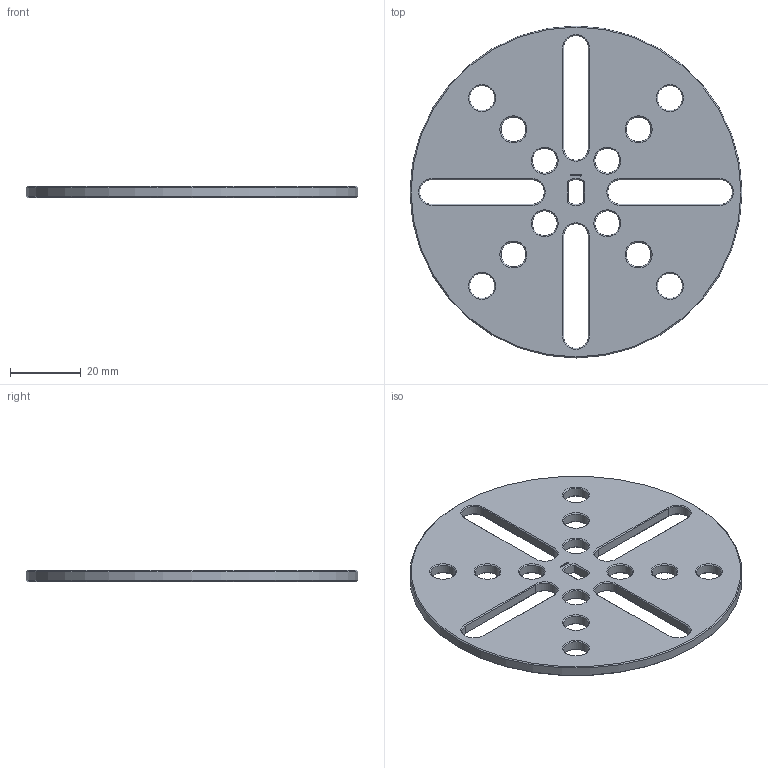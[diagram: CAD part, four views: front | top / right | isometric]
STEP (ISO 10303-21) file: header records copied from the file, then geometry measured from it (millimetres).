
FILE_DESCRIPTION(/* description */ (''),/* implementation_level */ '2;1');
FILE_NAME(/* name */ '/Users/paulokiefe/Desktop/STEMFIE/Fasteners/Washers/Fixed/Washer WSR FXD BU0.25x7.50 - SPN-WSR-0027 v1.step',/* time_stamp */ '2020-09-27T23:21:03+02:00',/* author */ (''),/* organization */ (''),/* preprocessor_version */ 'ST-DEVELOPER v18.1',/* originating_system */ 'Autodesk Translation Framework v9.3.0.1241',/* authorisation */ '');
FILE_SCHEMA (('AUTOMOTIVE_DESIGN { 1 0 10303 214 3 1 1 }'));
Length unit declared in the file: millimetre
Products named in the file (1): Washer WSR FXD BU0.25x7.50 - SPN-WSR-0027
Bounding box: 93.75 x 93.75 x 3.12 mm (x, y, z)
Volume: 17015.8 mm3; surface area: 13419.9 mm2
Topology: 1 solids, 1 shells, 345 faces, 927 edges, 596 vertices
Faces by surface type: plane 276, cone 46, cylinder 23
Full cylindrical faces by diameter (mm): 7 x12, 93.75 x1
Entity records: 10674 total; most frequent: CARTESIAN_POINT 1893, ORIENTED_EDGE 1854, DIRECTION 1703, EDGE_CURVE 927, LINE 827, VECTOR 827, VERTEX_POINT 596, AXIS2_PLACEMENT_3D 438
